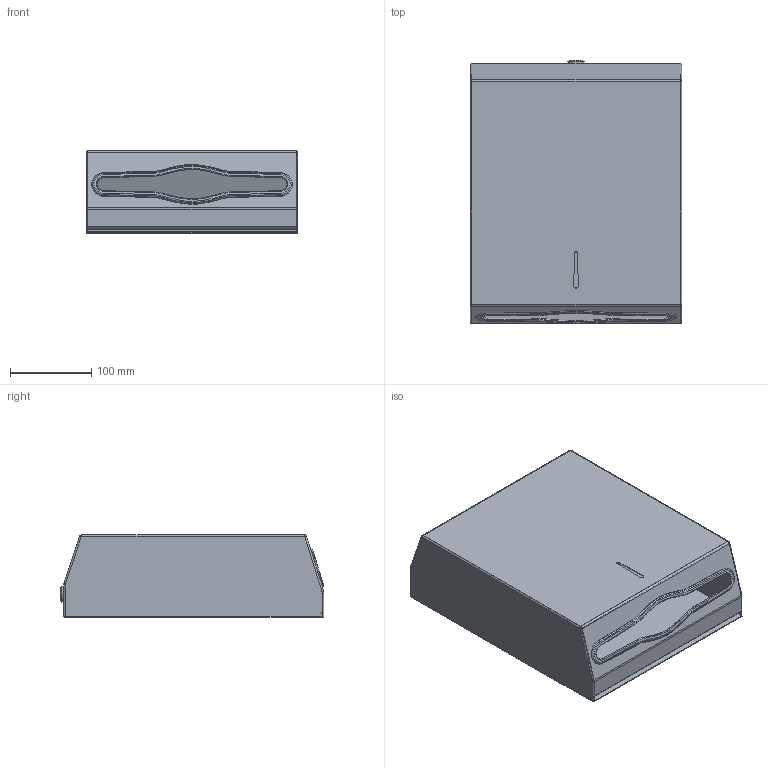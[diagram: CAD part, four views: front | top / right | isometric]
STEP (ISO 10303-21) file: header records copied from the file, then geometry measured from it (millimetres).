
FILE_DESCRIPTION (( 'STEP AP203' ), '1' );
FILE_NAME ('TD10400 Kaðýt Havluluk.STEP', '2016-12-22T12:59:01', ( '' ), ( '' ), 'SwSTEP 2.0', 'SolidWorks 2016', '' );
FILE_SCHEMA (( 'CONFIG_CONTROL_DESIGN' ));
Length unit declared in the file: millimetre
Products named in the file (1): TD10400 Kaðýt Havluluk
Bounding box: 260 x 324.3 x 101.5 mm (x, y, z)
Volume: 269210.5 mm3; surface area: 528116.1 mm2
Topology: 3 solids, 3 shells, 186 faces, 439 edges, 260 vertices
Faces by surface type: cylinder 64, plane 48, torus 40, bspline 24, cone 8, sphere 2
Entity records: 6343 total; most frequent: CARTESIAN_POINT 2117, ORIENTED_EDGE 878, DIRECTION 864, EDGE_CURVE 439, AXIS2_PLACEMENT_3D 341, VERTEX_POINT 260, EDGE_LOOP 195, FACE_OUTER_BOUND 186
